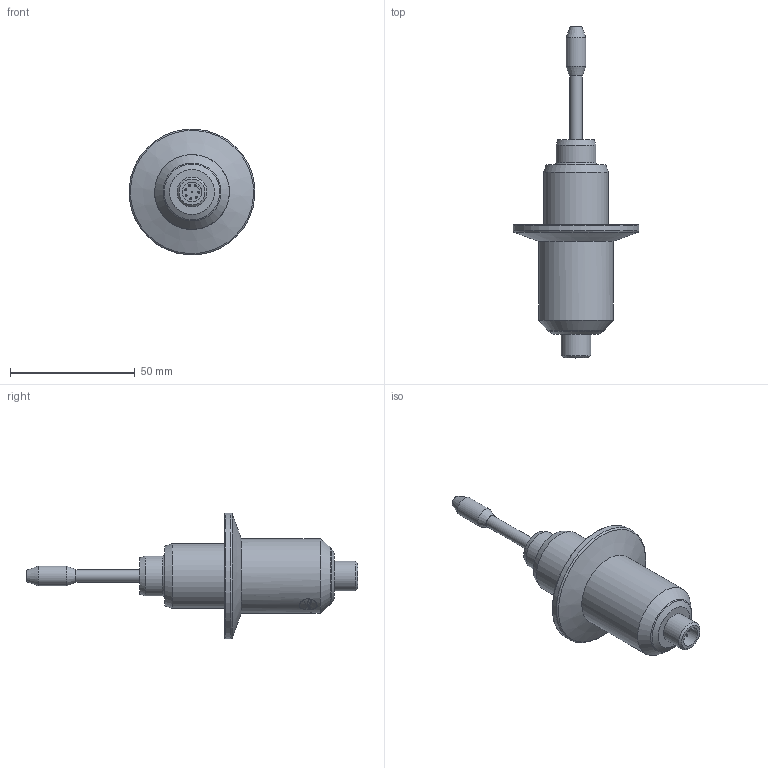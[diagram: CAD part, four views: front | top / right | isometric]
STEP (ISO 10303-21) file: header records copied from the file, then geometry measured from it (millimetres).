
FILE_DESCRIPTION(/* description */ ('Unknown'),/* implementation_level */ '2;1');
FILE_NAME(/* name */ 'SRV-X3-15T',/* time_stamp */ '2024-01-15T16:32:27-05:00',/* author */ ('Unknown'),/* organization */ ('Unknown'),/* preprocessor_version */ 'ST-DEVELOPER v16.7',/* originating_system */ 'Solid Edge',/* authorisation */ 'Unknown');
FILE_SCHEMA (('CONFIG_CONTROL_DESIGN'));
Length unit declared in the file: millimetre
Products named in the file (1): SRV-X3-15T
Bounding box: 50.36 x 133.13 x 50.36 mm (x, y, z)
Volume: 51913 mm3; surface area: 11843.5 mm2
Topology: 1 solids, 1 shells, 172 faces, 444 edges, 295 vertices
Faces by surface type: bspline 71, cylinder 38, plane 37, cone 12, sphere 8, torus 6
Full cylindrical faces by diameter (mm): 0.8 x8, 5.019 x1, 8 x2, 12 x1, 16 x1, 26 x1, 30 x1, 50.5 x1
Entity records: 9113 total; most frequent: CARTESIAN_POINT 4543, ORIENTED_EDGE 740, DIRECTION 476, EDGE_CURVE 370, VERTEX_POINT 263, EDGE_LOOP 235, FACE_BOUND 235, AXIS2_PLACEMENT_3D 175
